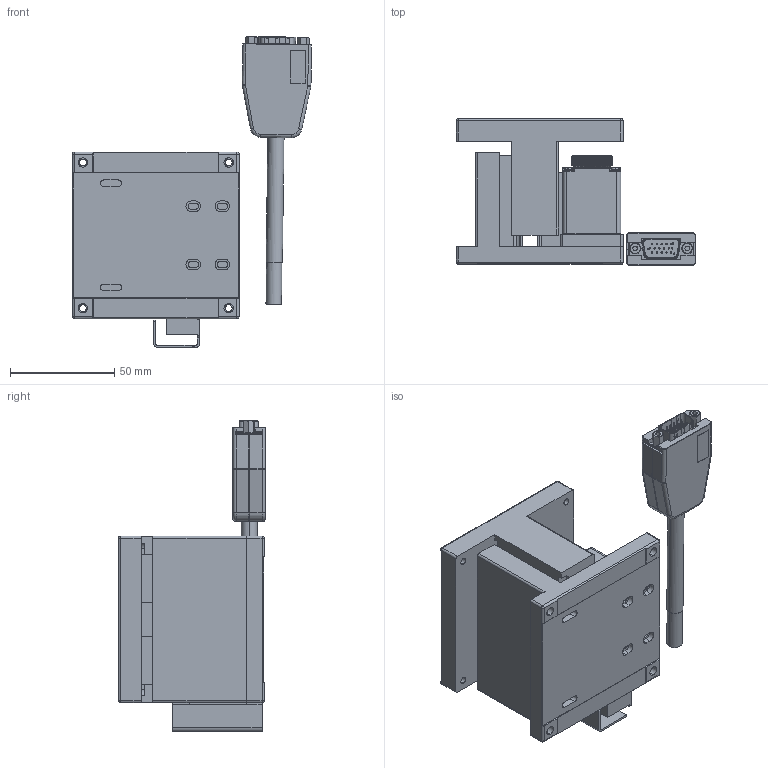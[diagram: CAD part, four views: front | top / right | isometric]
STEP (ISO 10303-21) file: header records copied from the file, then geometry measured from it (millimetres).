
FILE_DESCRIPTION (( 'STEP AP214' ), '1' );
FILE_NAME ('PT-GZ80.STEP', '2023-01-18T04:57:46', ( '' ), ( '' ), 'SwSTEP 2.0', 'SolidWorks 2017', '' );
FILE_SCHEMA (( 'AUTOMOTIVE_DESIGN' ));
Length unit declared in the file: millimetre
Products named in the file (4): GROUP1_AZV8010-F___K__; PT-GZ80; PA-4002-AF-1_AZV8010-F___K__; GROUP2_AZV8010-F___K__
Assembly tree (3 placements, depth 2):
  PT-GZ80
    GROUP1_AZV8010-F___K__
    GROUP2_AZV8010-F___K__
    PA-4002-AF-1_AZV8010-F___K__
Bounding box: 114.8 x 70.7 x 149.24 mm (x, y, z)
Volume: 260301.5 mm3; surface area: 78565.2 mm2
Topology: 2 solids, 7 shells, 1611 faces, 4331 edges, 2807 vertices
Faces by surface type: plane 782, cylinder 390, torus 204, bspline 196, cone 31, sphere 8
Entity records: 65440 total; most frequent: CARTESIAN_POINT 27664, ORIENTED_EDGE 8560, DIRECTION 6735, EDGE_CURVE 4321, VERTEX_POINT 2807, AXIS2_PLACEMENT_3D 2341, LINE 2053, VECTOR 2053
